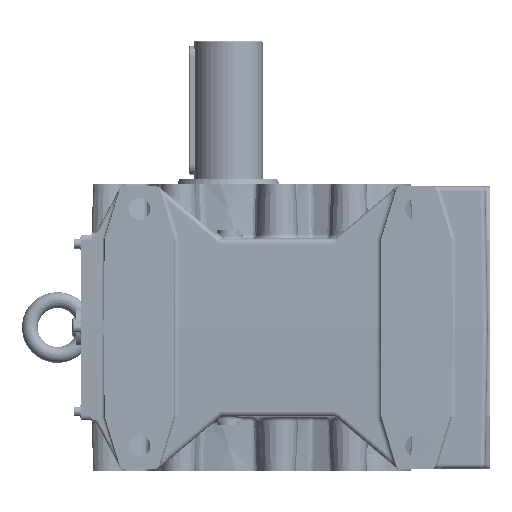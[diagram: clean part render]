
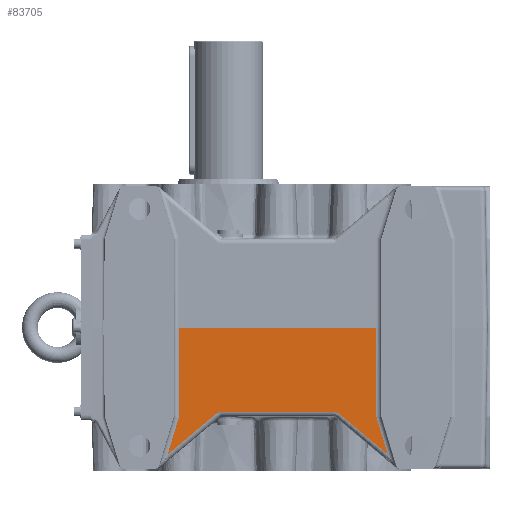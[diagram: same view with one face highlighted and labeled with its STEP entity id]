
A CAD part, left-side view. The second image highlights one B-rep face of the part: STEP entity #83705.
In plain terms, the highlighted planar face has unit normal (-1, 0, -0.018).
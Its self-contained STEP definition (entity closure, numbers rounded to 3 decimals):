
#43871=CARTESIAN_POINT('',(-156.571,-150.0,0.0));
#43872=VERTEX_POINT('',#43871);
#43880=CARTESIAN_POINT('',(-154.989,-150.0,-90.651));
#43881=VERTEX_POINT('',#43880);
#43882=CARTESIAN_POINT('',(-156.571,-150.0,0.));
#43883=DIRECTION('',(0.017,0.0,-1.));
#43884=VECTOR('',#43883,90.665);
#43885=LINE('',#43882,#43884);
#43886=EDGE_CURVE('',#43872,#43881,#43885,.T.);
#44311=CARTESIAN_POINT('',(-156.571,50.,0.0));
#44312=VERTEX_POINT('',#44311);
#44354=CARTESIAN_POINT('',(-154.989,50.,-90.651));
#44355=VERTEX_POINT('',#44354);
#44363=CARTESIAN_POINT('',(-154.989,50.,-90.651));
#44364=DIRECTION('',(-0.017,0.0,1.));
#44365=VECTOR('',#44364,90.665);
#44366=LINE('',#44363,#44365);
#44367=EDGE_CURVE('',#44355,#44312,#44366,.T.);
#73596=CARTESIAN_POINT('',(-155.045,12.445,-87.427));
#73597=VERTEX_POINT('',#73596);
#73605=CARTESIAN_POINT('',(-154.327,61.437,-128.536));
#73606=VERTEX_POINT('',#73605);
#73607=CARTESIAN_POINT('',(-155.045,12.445,-87.427));
#73608=DIRECTION('',(0.011,0.766,-0.643));
#73609=VECTOR('',#73608,63.958);
#73610=LINE('',#73607,#73609);
#73611=EDGE_CURVE('',#73597,#73606,#73610,.T.);
#73653=CARTESIAN_POINT('',(-155.086,6.017,-85.087));
#73654=VERTEX_POINT('',#73653);
#73662=CARTESIAN_POINT('',(-154.911,6.017,-95.087));
#73663=DIRECTION('',(-1.,0.,-0.017));
#73664=DIRECTION('',(-0.017,0.,1.));
#73665=AXIS2_PLACEMENT_3D('',#73662,#73663,#73664);
#73666=ELLIPSE('',#73665,10.002,10.);
#73667=EDGE_CURVE('',#73654,#73597,#73666,.T.);
#73687=CARTESIAN_POINT('',(-155.086,-106.017,-85.087));
#73688=VERTEX_POINT('',#73687);
#73696=CARTESIAN_POINT('',(-155.086,-106.017,-85.087));
#73697=DIRECTION('',(0.0,1.0,0.0));
#73698=VECTOR('',#73697,112.034);
#73699=LINE('',#73696,#73698);
#73700=EDGE_CURVE('',#73688,#73654,#73699,.T.);
#83492=CARTESIAN_POINT('',(-154.327,-161.437,-128.536));
#83493=VERTEX_POINT('',#83492);
#83524=CARTESIAN_POINT('',(-155.045,-112.445,-87.427));
#83525=VERTEX_POINT('',#83524);
#83535=CARTESIAN_POINT('',(-154.327,-161.437,-128.536));
#83536=DIRECTION('',(-0.011,0.766,0.643));
#83537=VECTOR('',#83536,63.958);
#83538=LINE('',#83535,#83537);
#83539=EDGE_CURVE('',#83493,#83525,#83538,.T.);
#83572=CARTESIAN_POINT('',(-154.911,-106.017,-95.087));
#83573=DIRECTION('',(-1.,0.,-0.017));
#83574=DIRECTION('',(-0.017,0.,1.));
#83575=AXIS2_PLACEMENT_3D('',#83572,#83573,#83574);
#83576=ELLIPSE('',#83575,10.002,10.0);
#83577=EDGE_CURVE('',#83525,#73688,#83576,.T.);
#83667=CARTESIAN_POINT('',(-154.327,61.437,-128.536));
#83668=DIRECTION('',(-0.017,-0.289,0.957));
#83669=VECTOR('',#83668,39.579);
#83670=LINE('',#83667,#83669);
#83671=EDGE_CURVE('',#73606,#44355,#83670,.T.);
#83678=CARTESIAN_POINT('',(-156.571,-260.0,-0.014));
#83679=DIRECTION('',(1.,0.,0.017));
#83680=DIRECTION('',(0.017,0.,-1.));
#83681=AXIS2_PLACEMENT_3D('',#83678,#83679,#83680);
#83682=PLANE('',#83681);
#83683=ORIENTED_EDGE('',*,*,#73611,.F.);
#83684=ORIENTED_EDGE('',*,*,#73667,.F.);
#83685=ORIENTED_EDGE('',*,*,#73700,.F.);
#83686=ORIENTED_EDGE('',*,*,#83577,.F.);
#83687=ORIENTED_EDGE('',*,*,#83539,.F.);
#83688=CARTESIAN_POINT('',(-154.989,-150.0,-90.651));
#83689=DIRECTION('',(0.017,-0.289,-0.957));
#83690=VECTOR('',#83689,39.579);
#83691=LINE('',#83688,#83690);
#83692=EDGE_CURVE('',#43881,#83493,#83691,.T.);
#83693=ORIENTED_EDGE('',*,*,#83692,.F.);
#83694=ORIENTED_EDGE('',*,*,#43886,.F.);
#83695=CARTESIAN_POINT('',(-156.571,-150.0,0.0));
#83696=DIRECTION('',(0.0,1.0,0.0));
#83697=VECTOR('',#83696,200.);
#83698=LINE('',#83695,#83697);
#83699=EDGE_CURVE('',#44312,#43872,#83698,.F.);
#83700=ORIENTED_EDGE('',*,*,#83699,.F.);
#83701=ORIENTED_EDGE('',*,*,#44367,.F.);
#83702=ORIENTED_EDGE('',*,*,#83671,.F.);
#83703=EDGE_LOOP('',(#83683,#83684,#83685,#83686,#83687,#83693,#83694,#83700,#83701,#83702));
#83704=FACE_OUTER_BOUND('',#83703,.T.);
#83705=ADVANCED_FACE('',(#83704),#83682,.F.);
